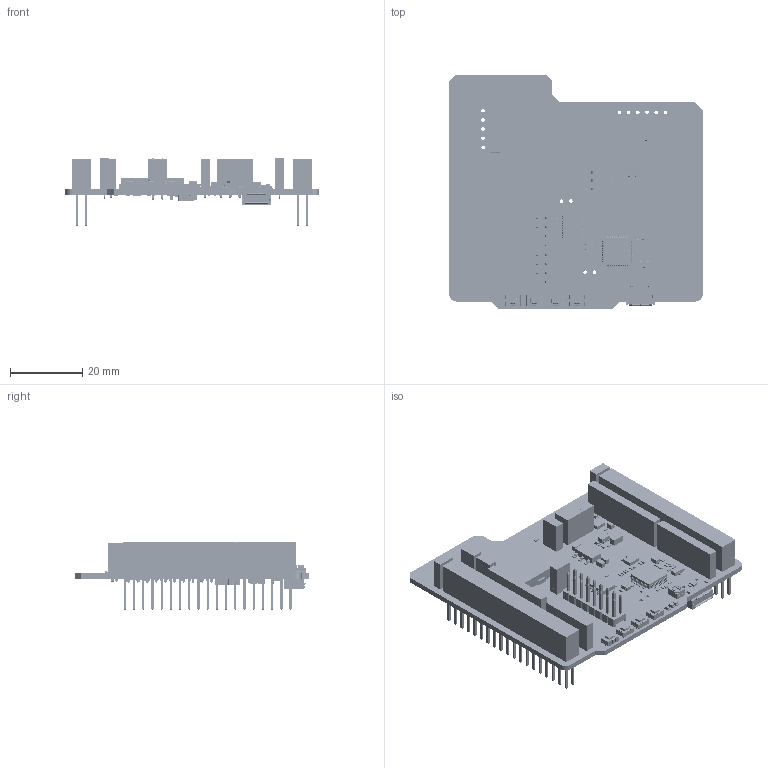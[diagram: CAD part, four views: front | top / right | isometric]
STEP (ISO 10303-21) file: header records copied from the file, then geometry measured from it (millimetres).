
FILE_DESCRIPTION(('Open CASCADE Model'),'2;1');
FILE_NAME('Open CASCADE Shape Model','2021-01-15T08:00:58',('Author'),( 'Open CASCADE'),'Open CASCADE STEP processor 6.8','Open CASCADE 6.8' ,'Unknown');
FILE_SCHEMA(('AUTOMOTIVE_DESIGN { 1 0 10303 214 1 1 1 1 }'));
Length unit declared in the file: millimetre
Products named in the file (339): PCB; Board; Open CASCADE STEP translator 6.8 2.1.1; U13; 6174397184; Extruded; 6174397584; 6174396864; 6174397984; Cylinder; R13; R0402; 6173998304; R1; C17; C0402; 6188852512; C50; CN6; SSW-108-01-G-S; _T1SSW-108-01-G-S; _P2SSW-108-01-G-S; 6188854752; CN8; SSW-106-01-G-S; _T1SSW-106-01-G-S; _P2SSW-106-01-G-S; 6188854512; CN15; MOLEX_105017-0001; Open CASCADE STEP translator 6.8 2.9.1.1; Open CASCADE STEP translator 6.8 2.9.1.2; 6188858272; 6188858512; U2; SOT223; 6173998624; LD6; 6173996544; 6173995824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
Assembly tree (607 placements, depth 4):
  PCB
    Board
      Open CASCADE STEP translator 6.8 2.1.1
    U13
      6174397184
        Extruded
      6174397584
        Extruded
      6174396864  x6
        Extruded
      6174397984
        Cylinder
    R13
      R0402
      6173998304
        Extruded
    R1
      R0402
      6173998304
        Extruded
    C17
      C0402
      6188852512
        Extruded
    C50
      C0402
      6188852512
        Extruded
    CN6
      SSW-108-01-G-S
        _T1SSW-108-01-G-S
        _P2SSW-108-01-G-S
      6188854752
        Extruded
    CN8
      SSW-106-01-G-S
        _T1SSW-106-01-G-S
        _P2SSW-106-01-G-S
      6188854512
        Extruded
    CN15
      MOLEX_105017-0001
        Open CASCADE STEP translator 6.8 2.9.1.1
        Open CASCADE STEP translator 6.8 2.9.1.2
      6188858272
        Extruded
      6188858512
        Extruded
    U2
      SOT223
      6173998624
        Extruded
    LD6
      6173996544  x4
        Extruded
      6173995824  x4
        Extruded
      6174394624
        Extruded
      6173994864
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Bounding box: 70 x 64.48 x 18.67 mm (x, y, z)
Volume: 17780.8 mm3; surface area: 31561.2 mm2
Topology: 543 solids, 549 shells, 27444 faces, 64989 edges, 37234 vertices
Faces by surface type: plane 12734, cylinder 7739, bspline 4155, sphere 2164, torus 360, revolution 264, cone 28
Full cylindrical faces by diameter (mm): 0.2 x6, 0.3 x1, 0.4 x1, 0.6 x1, 0.9 x4, 1 x51, 1.1 x32, 1.2 x76
Entity records: 269957 total; most frequent: CARTESIAN_POINT 57013, ORIENTED_EDGE 35466, DIRECTION 33919, EDGE_CURVE 17734, LINE 14805, VECTOR 14805, VERTEX_POINT 11210, AXIS2_PLACEMENT_3D 9553
